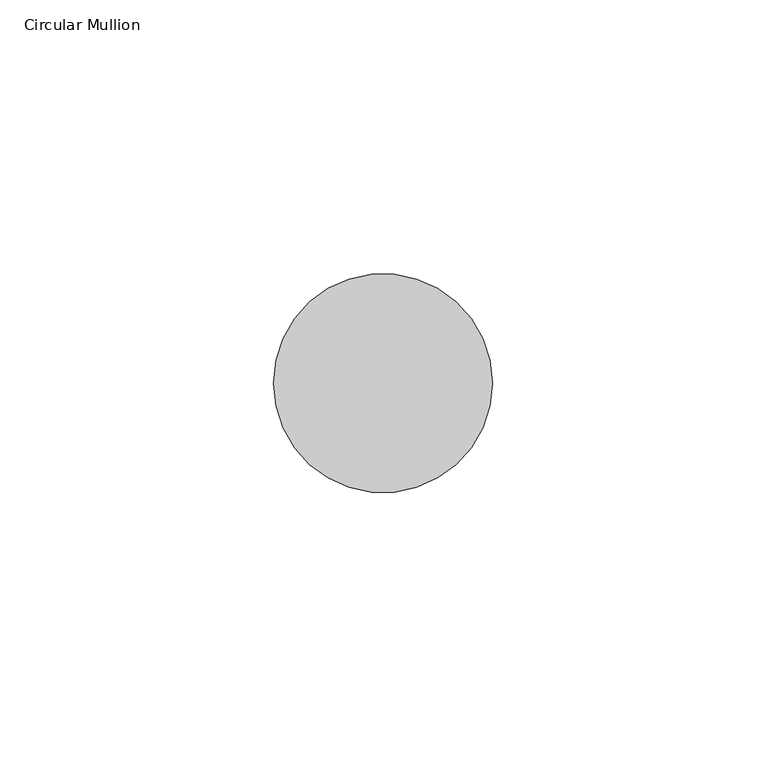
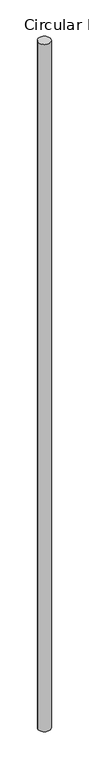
"""IFC4 building model written with IfcOpenShell, lengths in millimetres: member geometry, Circular Mullion : GRADIL 40mm."""

from ifc_helpers import new_model, si_unit, point, frame, origin, origin_2d, place, context, project, spatial, circle_curve, trimmed, segment, composite_curve, outline, extrude, source, transform, mapped, element, save


def circular_mullion_a9f31288(model_context):
    return source(origin(), model_context, "Body", "SweptSolid", [
        extrude(outline(composite_curve([segment(trimmed(circle_curve(origin_2d(), 20.0), [point((20.0, 0.0))], [point((-20.0, 0.0))], False, "CARTESIAN"), True, "CONTINUOUS"), segment(trimmed(circle_curve(origin_2d(), 20.0), [point((-20.0, 0.0))], [point((20.0, 0.0))], False, "CARTESIAN"), True, "CONTINUOUS")], self_intersect=False)), frame((0.0, 0.0, -2367.5530979), z_axis=(0.0, 0.0, 1.0), x_axis=(1.0, 0.0, 0.0)), (0.0, 0.0, 1.0), 2367.5530979),
    ])


if __name__ == "__main__":
    model = new_model("IFC4")
    model_context = context("Model", 3, world=origin())
    ifc_project = project(units=[si_unit("LENGTHUNIT", "METRE", prefix="MILLI")], contexts=[model_context])
    site = spatial("IfcSite", under=ifc_project)
    building = spatial("IfcBuilding", under=site)
    placement = place(None, origin())
    circular_mullion_shape = circular_mullion_a9f31288(model_context)
    element("IfcMember", 1, ObjectType="Circular Mullion : GRADIL 40mm", at=placement, inside=building, context=model_context, shape_type="MappedRepresentation", body=[
        mapped(circular_mullion_shape, transform((0.0, 0.0, 0.0), x_axis=(1.0, 0.0, 0.0), y_axis=(0.0, 1.0, 0.0), z_axis=(0.0, 0.0, 1.0))),
    ])
    save(model, "model.ifc")
